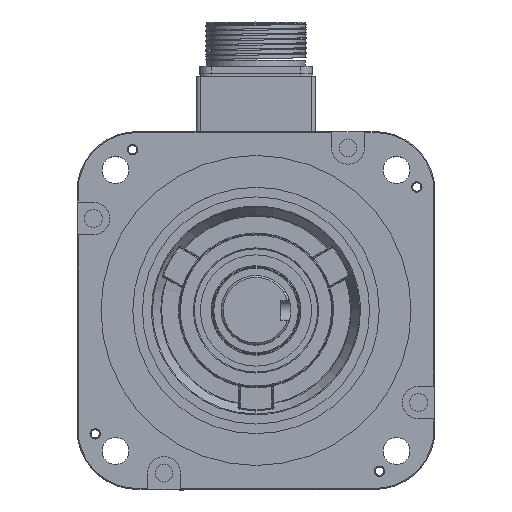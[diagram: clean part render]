
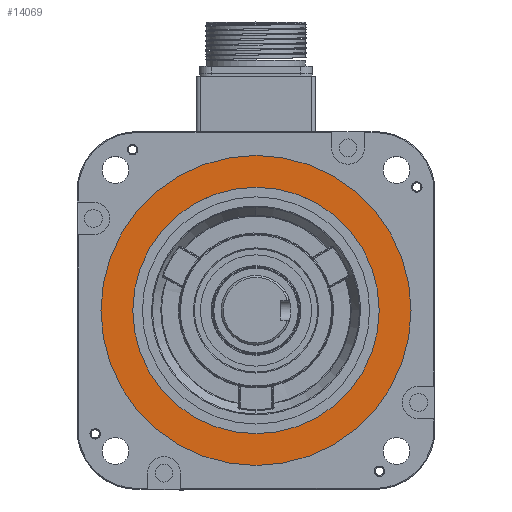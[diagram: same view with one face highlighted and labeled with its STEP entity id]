
A CAD part, top view. The second image highlights one B-rep face of the part: STEP entity #14069.
In plain terms, the highlighted planar face has unit normal (0, 0, -1).
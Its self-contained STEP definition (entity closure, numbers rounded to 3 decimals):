
#2410 = PLANE ( 'NONE',  #7886 ) ;
#3725 = DIRECTION ( 'NONE',  ( 0., 0., 1. ) ) ;
#3866 = VERTEX_POINT ( 'NONE', #10339 ) ;
#5290 = CARTESIAN_POINT ( 'NONE',  ( 98.315, 219.183, 90.807 ) ) ;
#5823 = DIRECTION ( 'NONE',  ( 0., 0., 1. ) ) ;
#6593 = FACE_OUTER_BOUND ( 'NONE', #38455, .T. ) ;
#7310 = CARTESIAN_POINT ( 'NONE',  ( 36.315, 219.183, 90.807 ) ) ;
#7886 = AXIS2_PLACEMENT_3D ( 'NONE', #32820, #5823, #29566 ) ;
#9027 = CIRCLE ( 'NONE', #10064, 78. ) ;
#9128 = AXIS2_PLACEMENT_3D ( 'NONE', #17726, #41456, #21094 ) ;
#10064 = AXIS2_PLACEMENT_3D ( 'NONE', #24025, #3725, #27451 ) ;
#10339 = CARTESIAN_POINT ( 'NONE',  ( -41.685, 219.183, 90.807 ) ) ;
#10725 = DIRECTION ( 'NONE',  ( 1., 0., 0. ) ) ;
#12575 = CARTESIAN_POINT ( 'NONE',  ( -25.685, 219.183, 90.807 ) ) ;
#14069 = ADVANCED_FACE ( 'NONE', ( #6593, #24592 ), #2410, .F. ) ;
#14409 = ORIENTED_EDGE ( 'NONE', *, *, #25101, .F. ) ;
#15417 = AXIS2_PLACEMENT_3D ( 'NONE', #36842, #16526, #40257 ) ;
#16526 = DIRECTION ( 'NONE',  ( 0., 0., -1. ) ) ;
#16754 = AXIS2_PLACEMENT_3D ( 'NONE', #7310, #31006, #10725 ) ;
#17726 = CARTESIAN_POINT ( 'NONE',  ( 36.315, 219.183, 90.807 ) ) ;
#17908 = EDGE_CURVE ( 'NONE', #3866, #22294, #31416, .T. ) ;
#19720 = EDGE_CURVE ( 'NONE', #24514, #20513, #24405, .T. ) ;
#19992 = EDGE_CURVE ( 'NONE', #22294, #3866, #9027, .T. ) ;
#20513 = VERTEX_POINT ( 'NONE', #5290 ) ;
#21094 = DIRECTION ( 'NONE',  ( 1., 0., 0. ) ) ;
#22294 = VERTEX_POINT ( 'NONE', #24341 ) ;
#24025 = CARTESIAN_POINT ( 'NONE',  ( 36.315, 219.183, 90.807 ) ) ;
#24341 = CARTESIAN_POINT ( 'NONE',  ( 114.315, 219.183, 90.807 ) ) ;
#24405 = CIRCLE ( 'NONE', #15417, 62. ) ;
#24514 = VERTEX_POINT ( 'NONE', #12575 ) ;
#24592 = FACE_BOUND ( 'NONE', #28310, .T. ) ;
#24653 = ORIENTED_EDGE ( 'NONE', *, *, #17908, .F. ) ;
#25101 = EDGE_CURVE ( 'NONE', #20513, #24514, #28477, .T. ) ;
#27451 = DIRECTION ( 'NONE',  ( 1., 0., 0. ) ) ;
#28310 = EDGE_LOOP ( 'NONE', ( #14409, #41938 ) ) ;
#28477 = CIRCLE ( 'NONE', #16754, 62. ) ;
#29566 = DIRECTION ( 'NONE',  ( 1., 0., 0. ) ) ;
#31006 = DIRECTION ( 'NONE',  ( 0., 0., -1. ) ) ;
#31416 = CIRCLE ( 'NONE', #9128, 78. ) ;
#32820 = CARTESIAN_POINT ( 'NONE',  ( 36.315, 219.183, 90.807 ) ) ;
#33150 = ORIENTED_EDGE ( 'NONE', *, *, #19992, .F. ) ;
#36842 = CARTESIAN_POINT ( 'NONE',  ( 36.315, 219.183, 90.807 ) ) ;
#38455 = EDGE_LOOP ( 'NONE', ( #33150, #24653 ) ) ;
#40257 = DIRECTION ( 'NONE',  ( 1., 0., 0. ) ) ;
#41456 = DIRECTION ( 'NONE',  ( 0., 0., 1. ) ) ;
#41938 = ORIENTED_EDGE ( 'NONE', *, *, #19720, .F. ) ;
